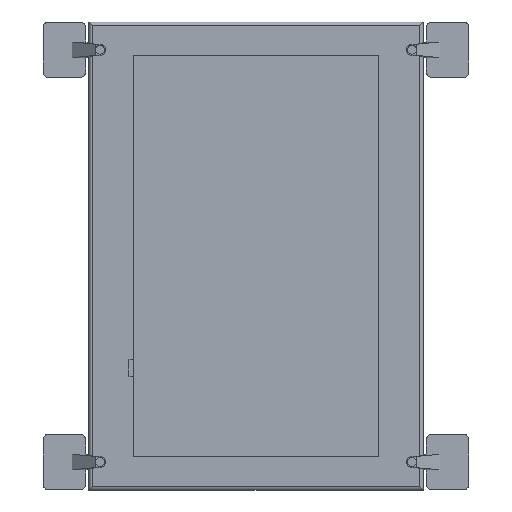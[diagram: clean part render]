
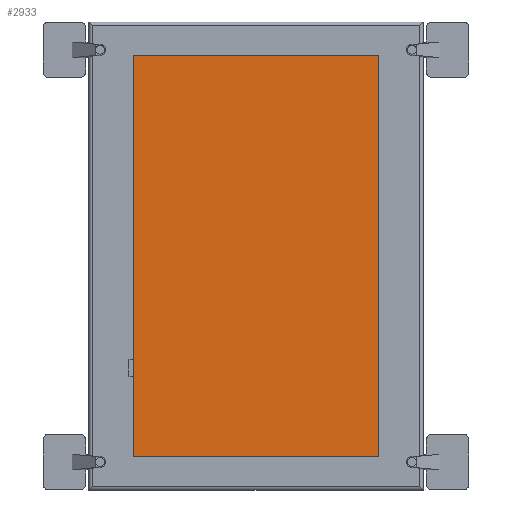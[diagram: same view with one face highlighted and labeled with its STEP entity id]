
A CAD part, top view. The second image highlights one B-rep face of the part: STEP entity #2933.
In plain terms, the highlighted planar face has unit normal (0, 0, 1).
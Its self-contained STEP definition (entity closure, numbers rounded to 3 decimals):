
#399=FACE_OUTER_BOUND('',#578,.T.);
#578=EDGE_LOOP('',(#2227,#2228,#2229,#2230));
#810=LINE('',#4356,#1130);
#813=LINE('',#4362,#1133);
#816=LINE('',#4368,#1136);
#819=LINE('',#4372,#1139);
#1130=VECTOR('',#3546,10.);
#1133=VECTOR('',#3551,10.);
#1136=VECTOR('',#3556,10.);
#1139=VECTOR('',#3561,10.);
#1416=VERTEX_POINT('',#4353);
#1417=VERTEX_POINT('',#4355);
#1419=VERTEX_POINT('',#4361);
#1421=VERTEX_POINT('',#4367);
#1702=EDGE_CURVE('',#1417,#1416,#810,.T.);
#1705=EDGE_CURVE('',#1419,#1417,#813,.T.);
#1708=EDGE_CURVE('',#1421,#1419,#816,.T.);
#1711=EDGE_CURVE('',#1416,#1421,#819,.T.);
#2227=ORIENTED_EDGE('',*,*,#1711,.T.);
#2228=ORIENTED_EDGE('',*,*,#1708,.T.);
#2229=ORIENTED_EDGE('',*,*,#1705,.T.);
#2230=ORIENTED_EDGE('',*,*,#1702,.T.);
#2806=PLANE('',#3131);
#2933=ADVANCED_FACE('',(#399),#2806,.T.);
#3131=AXIS2_PLACEMENT_3D('',#4373,#3562,#3563);
#3546=DIRECTION('',(0.,-1.,0.));
#3551=DIRECTION('',(-1.,0.,0.));
#3556=DIRECTION('',(0.,1.,0.));
#3561=DIRECTION('',(1.,0.,0.));
#3562=DIRECTION('center_axis',(0.,0.,1.));
#3563=DIRECTION('ref_axis',(1.,0.,0.));
#4353=CARTESIAN_POINT('',(-110.,-180.,67.));
#4355=CARTESIAN_POINT('',(-110.,180.,67.));
#4356=CARTESIAN_POINT('',(-110.,180.,67.));
#4361=CARTESIAN_POINT('',(110.,180.,67.));
#4362=CARTESIAN_POINT('',(110.,180.,67.));
#4367=CARTESIAN_POINT('',(110.,-180.,67.));
#4368=CARTESIAN_POINT('',(110.,-180.,67.));
#4372=CARTESIAN_POINT('',(-110.,-180.,67.));
#4373=CARTESIAN_POINT('Origin',(0.,0.,67.));
